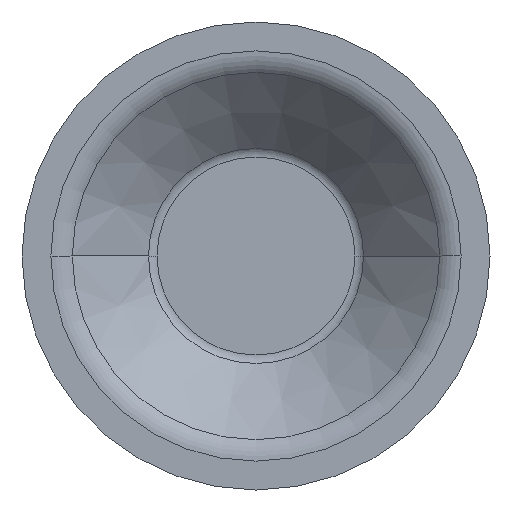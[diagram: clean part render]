
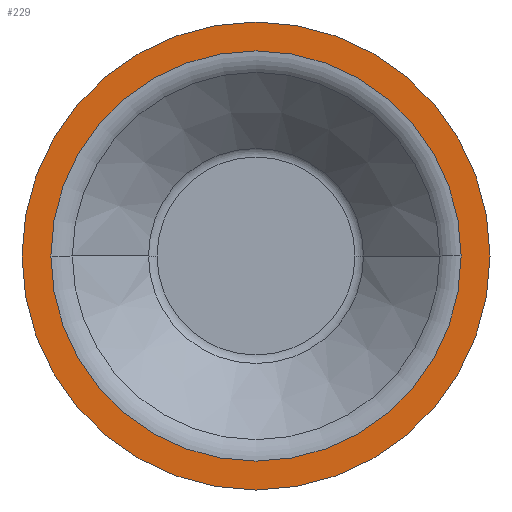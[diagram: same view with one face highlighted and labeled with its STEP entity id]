
A CAD part, front view. The second image highlights one B-rep face of the part: STEP entity #229.
In plain terms, the highlighted planar face has unit normal (0, -1, 0).
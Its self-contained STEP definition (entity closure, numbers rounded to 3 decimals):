
#2 = DIRECTION ( 'NONE',  ( -1., 0., 0. ) ) ;
#76 = AXIS2_PLACEMENT_3D ( 'NONE', #264, #1632, #656 ) ;
#111 = CARTESIAN_POINT ( 'NONE',  ( 33.312, -17., 0. ) ) ;
#131 = DIRECTION ( 'NONE',  ( 0., -1., 0. ) ) ;
#146 = AXIS2_PLACEMENT_3D ( 'NONE', #987, #844, #1595 ) ;
#207 = DIRECTION ( 'NONE',  ( 1., 0., 0. ) ) ;
#229 = ADVANCED_FACE ( 'NONE', ( #1208, #583 ), #994, .T. ) ;
#246 = CARTESIAN_POINT ( 'NONE',  ( 0., -17., 0. ) ) ;
#258 = ORIENTED_EDGE ( 'NONE', *, *, #1567, .T. ) ;
#264 = CARTESIAN_POINT ( 'NONE',  ( 0., -17., 0. ) ) ;
#314 = AXIS2_PLACEMENT_3D ( 'NONE', #843, #1344, #207 ) ;
#416 = EDGE_CURVE ( 'NONE', #631, #1530, #1449, .T. ) ;
#490 = VERTEX_POINT ( 'NONE', #726 ) ;
#527 = ORIENTED_EDGE ( 'NONE', *, *, #1271, .T. ) ;
#583 = FACE_OUTER_BOUND ( 'NONE', #1636, .T. ) ;
#631 = VERTEX_POINT ( 'NONE', #111 ) ;
#656 = DIRECTION ( 'NONE',  ( 1., 0., 0. ) ) ;
#700 = CARTESIAN_POINT ( 'NONE',  ( 38., -17., 0. ) ) ;
#726 = CARTESIAN_POINT ( 'NONE',  ( 38., -17., 0. ) ) ;
#757 = VERTEX_POINT ( 'NONE', #800 ) ;
#779 = AXIS2_PLACEMENT_3D ( 'NONE', #246, #131, #2 ) ;
#800 = CARTESIAN_POINT ( 'NONE',  ( -38., -17., 0. ) ) ;
#837 = EDGE_LOOP ( 'NONE', ( #1522, #1367 ) ) ;
#843 = CARTESIAN_POINT ( 'NONE',  ( 0., -17., 0. ) ) ;
#844 = DIRECTION ( 'NONE',  ( 0., -1., 0. ) ) ;
#953 = CIRCLE ( 'NONE', #314, 38. ) ;
#987 = CARTESIAN_POINT ( 'NONE',  ( 0., -17., 0. ) ) ;
#994 = PLANE ( 'NONE',  #1400 ) ;
#1024 = CARTESIAN_POINT ( 'NONE',  ( -33.312, -17., 0. ) ) ;
#1086 = CIRCLE ( 'NONE', #779, 33.312 ) ;
#1201 = DIRECTION ( 'NONE',  ( 1., 0., 0. ) ) ;
#1208 = FACE_BOUND ( 'NONE', #837, .T. ) ;
#1271 = EDGE_CURVE ( 'NONE', #490, #757, #953, .T. ) ;
#1304 = CIRCLE ( 'NONE', #76, 38. ) ;
#1344 = DIRECTION ( 'NONE',  ( 0., -1., 0. ) ) ;
#1367 = ORIENTED_EDGE ( 'NONE', *, *, #416, .F. ) ;
#1400 = AXIS2_PLACEMENT_3D ( 'NONE', #700, #1577, #1201 ) ;
#1449 = CIRCLE ( 'NONE', #146, 33.312 ) ;
#1482 = EDGE_CURVE ( 'NONE', #1530, #631, #1086, .T. ) ;
#1522 = ORIENTED_EDGE ( 'NONE', *, *, #1482, .F. ) ;
#1530 = VERTEX_POINT ( 'NONE', #1024 ) ;
#1567 = EDGE_CURVE ( 'NONE', #757, #490, #1304, .T. ) ;
#1577 = DIRECTION ( 'NONE',  ( 0., -1., 0. ) ) ;
#1595 = DIRECTION ( 'NONE',  ( -1., 0., 0. ) ) ;
#1632 = DIRECTION ( 'NONE',  ( 0., -1., 0. ) ) ;
#1636 = EDGE_LOOP ( 'NONE', ( #527, #258 ) ) ;
